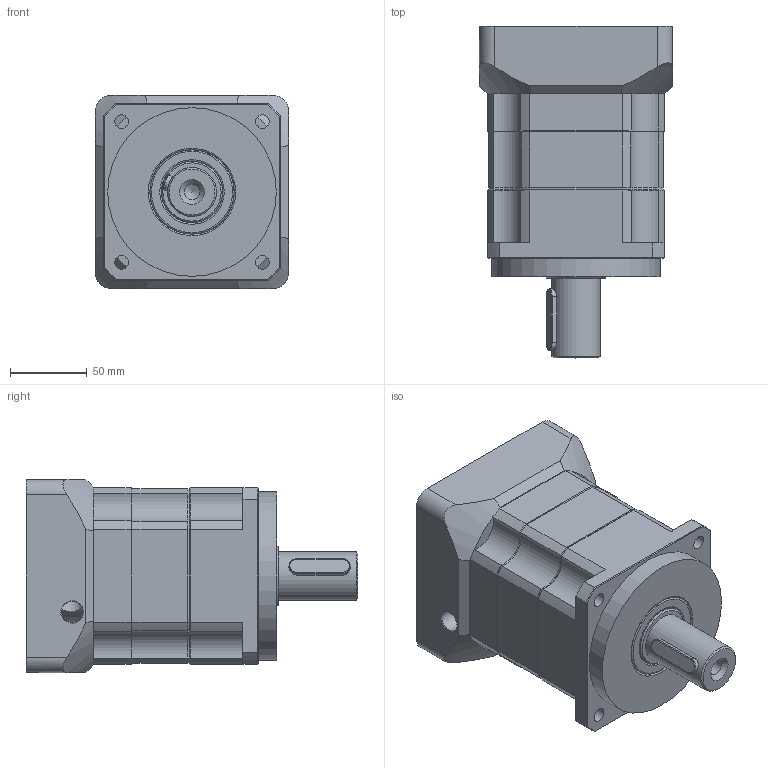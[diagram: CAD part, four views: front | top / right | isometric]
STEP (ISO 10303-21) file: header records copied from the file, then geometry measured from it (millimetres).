
FILE_DESCRIPTION (( 'STEP AP203' ), '1' );
FILE_NAME ('JHP115-2.STEP', '2015-02-26T05:20:43', ( 'wang' ), ( '' ), 'SwSTEP 2.0', 'SolidWorks 2013', '' );
FILE_SCHEMA (( 'CONFIG_CONTROL_DESIGN' ));
Products named in the file (1): JHP115-2
Bounding box: 126 x 216.5 x 126 mm (x, y, z)
Volume: 1691729.9 mm3; surface area: 323060 mm2
Topology: 34 solids, 34 shells, 1457 faces, 4013 edges, 2545 vertices
Faces by surface type: bspline 457, plane 420, cylinder 356, cone 119, sphere 91, torus 14
Full cylindrical faces by diameter (mm): 5 x1, 8 x17, 9 x4, 10 x2, 10.2 x2, 10.367 x3, 13 x4, 13.705 x1, 14 x1, 19 x1, 24 x1, 25 x1, 30 x1, 32 x1, 34.9 x1, 35 x1, 38 x1, 38.2 x1, 40 x3, 43 x1, 45 x1, 48.4 x2, 52 x1, 52.6 x1, 55 x2, 55.4 x1, 57 x1, 62 x1, 68 x1, 70 x1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
Entity records: 58521 total; most frequent: CARTESIAN_POINT 25668, ORIENTED_EDGE 7390, DIRECTION 5731, EDGE_CURVE 3695, VERTEX_POINT 2389, AXIS2_PLACEMENT_3D 2237, EDGE_LOOP 1734, FACE_OUTER_BOUND 1535
